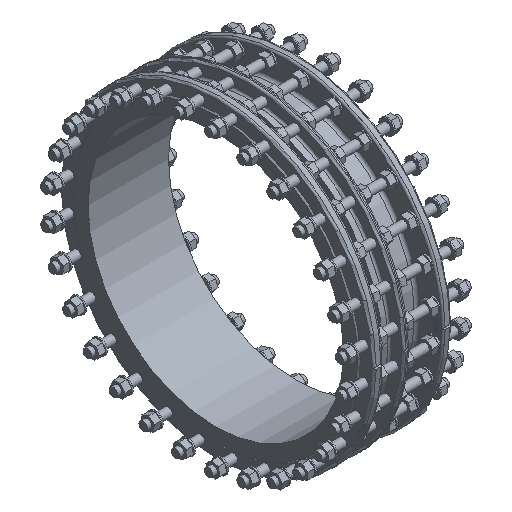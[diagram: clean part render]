
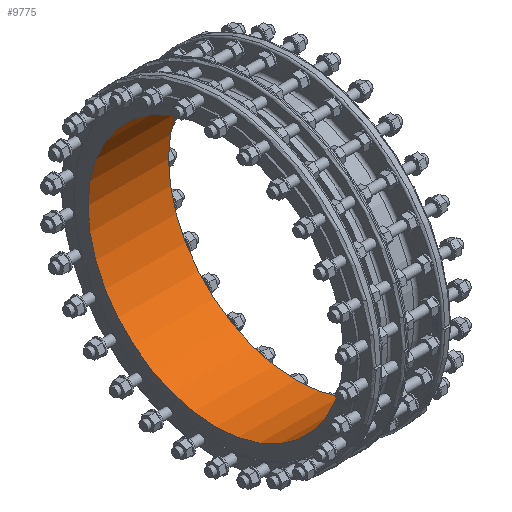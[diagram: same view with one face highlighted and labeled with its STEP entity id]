
A CAD part, isometric view. The second image highlights one B-rep face of the part: STEP entity #9775.
In plain terms, the highlighted cylindrical face has radius 500 mm (diameter 1000 mm), a full revolution.
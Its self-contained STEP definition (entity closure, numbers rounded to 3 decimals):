
#858 = CARTESIAN_POINT ( 'NONE',  ( 0., 0., 0. ) ) ;
#956 = CARTESIAN_POINT ( 'NONE',  ( 241., 0., 0. ) ) ;
#1100 = FACE_OUTER_BOUND ( 'NONE', #43526, .T. ) ;
#3145 = DIRECTION ( 'NONE',  ( 1., 0., 0. ) ) ;
#4572 = FACE_OUTER_BOUND ( 'NONE', #31427, .T. ) ;
#4641 = AXIS2_PLACEMENT_3D ( 'NONE', #956, #30885, #22987 ) ;
#6039 = EDGE_CURVE ( 'NONE', #34743, #34743, #25984, .T. ) ;
#7489 = AXIS2_PLACEMENT_3D ( 'NONE', #17999, #3145, #41214 ) ;
#9775 = ADVANCED_FACE ( 'NONE', ( #1100, #4572 ), #19667, .F. ) ;
#9969 = CARTESIAN_POINT ( 'NONE',  ( -74., 0., -500. ) ) ;
#12483 = DIRECTION ( 'NONE',  ( -1., 0., 0. ) ) ;
#13699 = DIRECTION ( 'NONE',  ( 0., 0., 1. ) ) ;
#17999 = CARTESIAN_POINT ( 'NONE',  ( -74., 0., 0. ) ) ;
#19667 = CYLINDRICAL_SURFACE ( 'NONE', #21118, 500. ) ;
#21118 = AXIS2_PLACEMENT_3D ( 'NONE', #858, #12483, #13699 ) ;
#21856 = VERTEX_POINT ( 'NONE', #9969 ) ;
#22987 = DIRECTION ( 'NONE',  ( 0., 0., 1. ) ) ;
#25984 = CIRCLE ( 'NONE', #4641, 500. ) ;
#30393 = CIRCLE ( 'NONE', #7489, 500. ) ;
#30885 = DIRECTION ( 'NONE',  ( -1., 0., 0. ) ) ;
#31427 = EDGE_LOOP ( 'NONE', ( #47675 ) ) ;
#31539 = CARTESIAN_POINT ( 'NONE',  ( 241., 0., 500. ) ) ;
#33560 = ORIENTED_EDGE ( 'NONE', *, *, #6039, .F. ) ;
#33841 = EDGE_CURVE ( 'NONE', #21856, #21856, #30393, .T. ) ;
#34743 = VERTEX_POINT ( 'NONE', #31539 ) ;
#41214 = DIRECTION ( 'NONE',  ( 0., 0., -1. ) ) ;
#43526 = EDGE_LOOP ( 'NONE', ( #33560 ) ) ;
#47675 = ORIENTED_EDGE ( 'NONE', *, *, #33841, .F. ) ;
